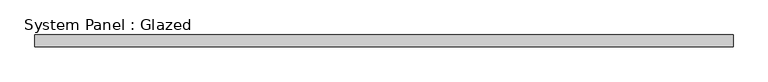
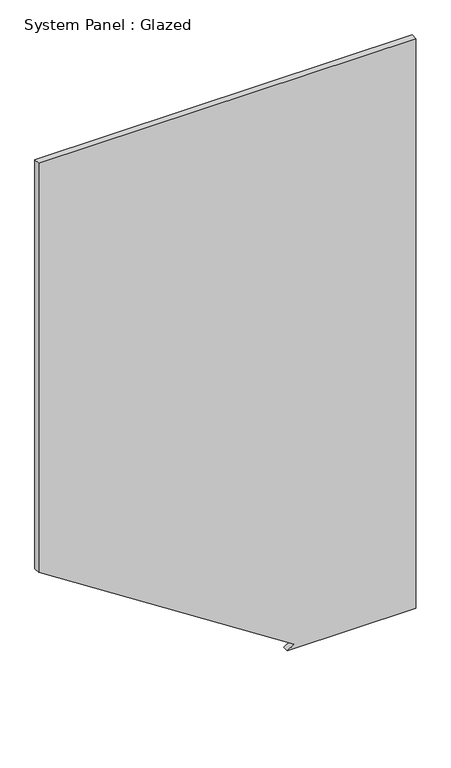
"""IFC4 building model written with IfcOpenShell, lengths in millimetres: plate geometry, System Panel : Glazed."""

from ifc_helpers import new_model, si_unit, frame, origin, place, context, project, spatial, polyline, outline, extrude, source, transform, mapped, element, save


def system_panel_glazed_78181b36(model_context):
    return source(origin(), model_context, "Body", "SweptSolid", [
        extrude(outline(polyline([(0.0, 234.8616758), (0.0, 735.8695652), (2350.0, 735.8695652), (2350.0, -735.8695652), (662.771631, -735.8695652), (16.9766442, 262.0271196), (0.0, 234.8616758)])), frame((0.0, 24.5, 0.0), z_axis=(0.0, 1.0, 0.0), x_axis=(0.0, 0.0, 1.0)), (0.0, 0.0, 1.0), 25.0),
    ])


if __name__ == "__main__":
    model = new_model("IFC4")
    model_context = context("Model", 3, world=origin())
    ifc_project = project(units=[si_unit("LENGTHUNIT", "METRE", prefix="MILLI")], contexts=[model_context])
    site = spatial("IfcSite", under=ifc_project)
    building = spatial("IfcBuilding", under=site)
    placement = place(None, origin())
    system_panel_glazed_shape = system_panel_glazed_78181b36(model_context)
    element("IfcPlate", 1, ObjectType="System Panel : Glazed", at=placement, inside=building, context=model_context, shape_type="MappedRepresentation", body=[
        mapped(system_panel_glazed_shape, transform((0.0, 0.0, 0.0), x_axis=(1.0, 0.0, 0.0), y_axis=(0.0, 1.0, 0.0), z_axis=(0.0, 0.0, 1.0))),
    ])
    save(model, "model.ifc")
